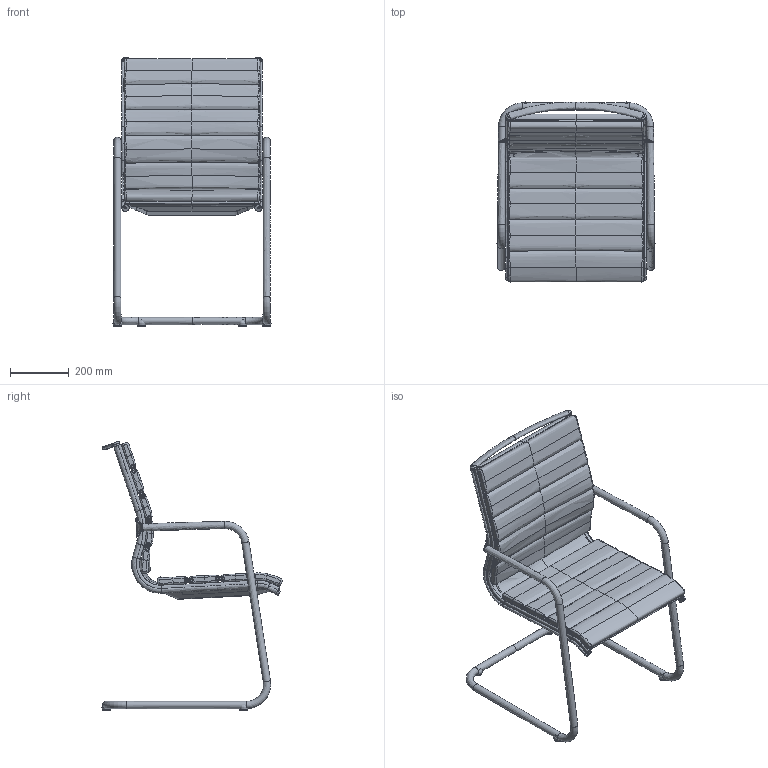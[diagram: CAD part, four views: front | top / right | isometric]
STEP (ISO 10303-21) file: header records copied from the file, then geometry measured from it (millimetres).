
FILE_DESCRIPTION(/* description */ (''),/* implementation_level */ '2;1');
FILE_NAME(/* name */ 'PL7602~1',/* time_stamp */ '2018-04-10T15:20:01+02:00',/* author */ (''),/* organization */ (''),/* preprocessor_version */ 'ST-DEVELOPER v16.5',/* originating_system */ '',/* authorisation */ '');
FILE_SCHEMA (('AUTOMOTIVE_DESIGN'));
Length unit declared in the file: millimetre
Products named in the file (1): Document
Bounding box: 539.81 x 615.2 x 917.21 mm (x, y, z)
Volume: 16735394 mm3; surface area: 2507440.6 mm2
Topology: 12 solids, 30 shells, 524 faces, 1361 edges, 875 vertices
Faces by surface type: bspline 490, plane 34
Entity records: 61647 total; most frequent: CARTESIAN_POINT 53455, ORIENTED_EDGE 2592, EDGE_CURVE 1358, B_SPLINE_CURVE_WITH_KNOTS 1128, VERTEX_POINT 869, ADVANCED_FACE 524, FACE_OUTER_BOUND 524, EDGE_LOOP 524
